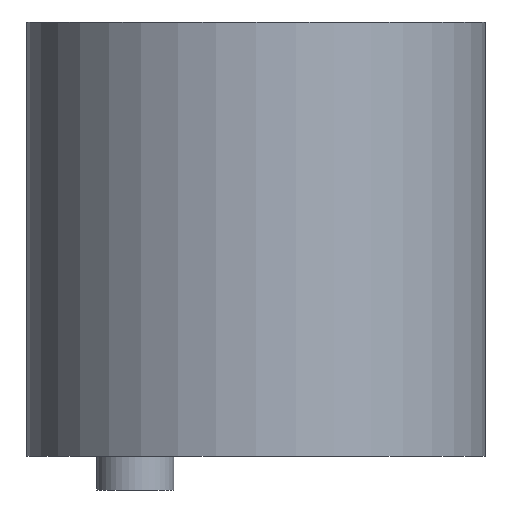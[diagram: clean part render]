
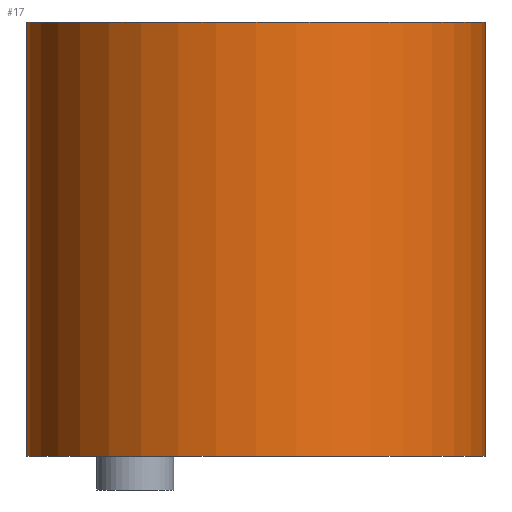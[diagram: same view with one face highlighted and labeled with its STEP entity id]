
A CAD part, front view. The second image highlights one B-rep face of the part: STEP entity #17.
In plain terms, the highlighted cylindrical face has radius 47.5 mm (diameter 95 mm), a full revolution.
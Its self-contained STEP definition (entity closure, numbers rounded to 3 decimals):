
#17 = ADVANCED_FACE('',(#18),#32,.T.);
#18 = FACE_BOUND('',#19,.F.);
#19 = EDGE_LOOP('',(#20,#50,#77,#78));
#20 = ORIENTED_EDGE('',*,*,#21,.T.);
#21 = EDGE_CURVE('',#22,#24,#26,.T.);
#22 = VERTEX_POINT('',#23);
#23 = CARTESIAN_POINT('',(47.5,0.,290.));
#24 = VERTEX_POINT('',#25);
#25 = CARTESIAN_POINT('',(47.5,0.,380.));
#26 = SEAM_CURVE('',#27,(#31,#43),.PCURVE_S1.);
#27 = LINE('',#28,#29);
#28 = CARTESIAN_POINT('',(47.5,0.,290.));
#29 = VECTOR('',#30,1.);
#30 = DIRECTION('',(0.,0.,1.));
#31 = PCURVE('',#32,#37);
#32 = CYLINDRICAL_SURFACE('',#33,47.5);
#33 = AXIS2_PLACEMENT_3D('',#34,#35,#36);
#34 = CARTESIAN_POINT('',(0.,0.,290.));
#35 = DIRECTION('',(-0.,-0.,-1.));
#36 = DIRECTION('',(1.,0.,0.));
#37 = DEFINITIONAL_REPRESENTATION('',(#38),#42);
#38 = LINE('',#39,#40);
#39 = CARTESIAN_POINT('',(-0.,0.));
#40 = VECTOR('',#41,1.);
#41 = DIRECTION('',(-0.,-1.));
#42 = ( GEOMETRIC_REPRESENTATION_CONTEXT(2) 
PARAMETRIC_REPRESENTATION_CONTEXT() REPRESENTATION_CONTEXT('2D SPACE',''
  ) );
#43 = PCURVE('',#32,#44);
#44 = DEFINITIONAL_REPRESENTATION('',(#45),#49);
#45 = LINE('',#46,#47);
#46 = CARTESIAN_POINT('',(-6.283,0.));
#47 = VECTOR('',#48,1.);
#48 = DIRECTION('',(-0.,-1.));
#49 = ( GEOMETRIC_REPRESENTATION_CONTEXT(2) 
PARAMETRIC_REPRESENTATION_CONTEXT() REPRESENTATION_CONTEXT('2D SPACE',''
  ) );
#50 = ORIENTED_EDGE('',*,*,#51,.T.);
#51 = EDGE_CURVE('',#24,#24,#52,.T.);
#52 = SURFACE_CURVE('',#53,(#58,#65),.PCURVE_S1.);
#53 = CIRCLE('',#54,47.5);
#54 = AXIS2_PLACEMENT_3D('',#55,#56,#57);
#55 = CARTESIAN_POINT('',(0.,0.,380.));
#56 = DIRECTION('',(0.,0.,1.));
#57 = DIRECTION('',(1.,0.,0.));
#58 = PCURVE('',#32,#59);
#59 = DEFINITIONAL_REPRESENTATION('',(#60),#64);
#60 = LINE('',#61,#62);
#61 = CARTESIAN_POINT('',(-0.,-90.));
#62 = VECTOR('',#63,1.);
#63 = DIRECTION('',(-1.,0.));
#64 = ( GEOMETRIC_REPRESENTATION_CONTEXT(2) 
PARAMETRIC_REPRESENTATION_CONTEXT() REPRESENTATION_CONTEXT('2D SPACE',''
  ) );
#65 = PCURVE('',#66,#71);
#66 = PLANE('',#67);
#67 = AXIS2_PLACEMENT_3D('',#68,#69,#70);
#68 = CARTESIAN_POINT('',(0.,0.,380.));
#69 = DIRECTION('',(0.,0.,1.));
#70 = DIRECTION('',(1.,0.,-0.));
#71 = DEFINITIONAL_REPRESENTATION('',(#72),#76);
#72 = CIRCLE('',#73,47.5);
#73 = AXIS2_PLACEMENT_2D('',#74,#75);
#74 = CARTESIAN_POINT('',(0.,0.));
#75 = DIRECTION('',(1.,0.));
#76 = ( GEOMETRIC_REPRESENTATION_CONTEXT(2) 
PARAMETRIC_REPRESENTATION_CONTEXT() REPRESENTATION_CONTEXT('2D SPACE',''
  ) );
#77 = ORIENTED_EDGE('',*,*,#21,.F.);
#78 = ORIENTED_EDGE('',*,*,#79,.F.);
#79 = EDGE_CURVE('',#22,#22,#80,.T.);
#80 = SURFACE_CURVE('',#81,(#86,#93),.PCURVE_S1.);
#81 = CIRCLE('',#82,47.5);
#82 = AXIS2_PLACEMENT_3D('',#83,#84,#85);
#83 = CARTESIAN_POINT('',(0.,0.,290.));
#84 = DIRECTION('',(0.,0.,1.));
#85 = DIRECTION('',(1.,0.,0.));
#86 = PCURVE('',#32,#87);
#87 = DEFINITIONAL_REPRESENTATION('',(#88),#92);
#88 = LINE('',#89,#90);
#89 = CARTESIAN_POINT('',(-0.,0.));
#90 = VECTOR('',#91,1.);
#91 = DIRECTION('',(-1.,0.));
#92 = ( GEOMETRIC_REPRESENTATION_CONTEXT(2) 
PARAMETRIC_REPRESENTATION_CONTEXT() REPRESENTATION_CONTEXT('2D SPACE',''
  ) );
#93 = PCURVE('',#94,#99);
#94 = PLANE('',#95);
#95 = AXIS2_PLACEMENT_3D('',#96,#97,#98);
#96 = CARTESIAN_POINT('',(0.,0.,290.));
#97 = DIRECTION('',(0.,0.,1.));
#98 = DIRECTION('',(1.,0.,-0.));
#99 = DEFINITIONAL_REPRESENTATION('',(#100),#104);
#100 = CIRCLE('',#101,47.5);
#101 = AXIS2_PLACEMENT_2D('',#102,#103);
#102 = CARTESIAN_POINT('',(0.,0.));
#103 = DIRECTION('',(1.,0.));
#104 = ( GEOMETRIC_REPRESENTATION_CONTEXT(2) 
PARAMETRIC_REPRESENTATION_CONTEXT() REPRESENTATION_CONTEXT('2D SPACE',''
  ) );
